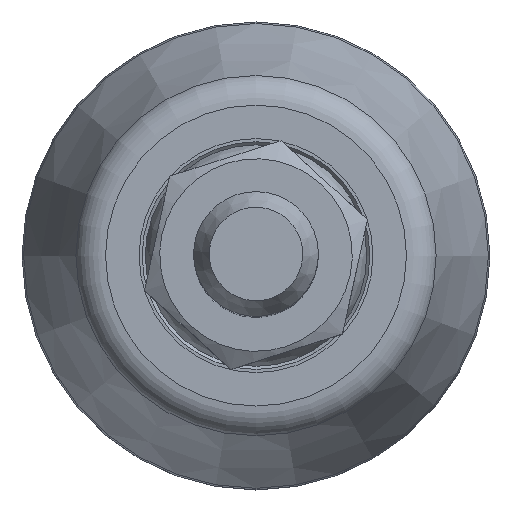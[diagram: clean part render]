
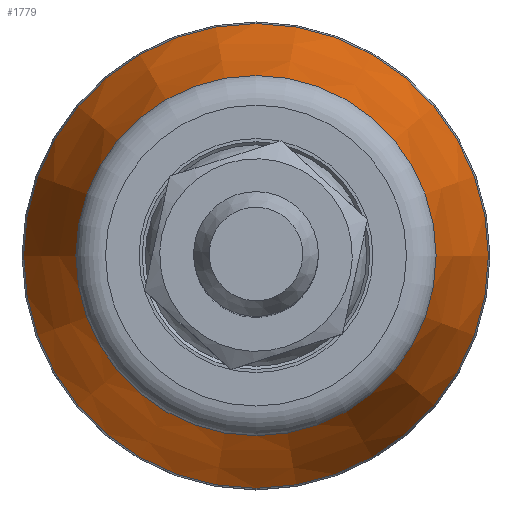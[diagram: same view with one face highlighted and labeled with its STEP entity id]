
A CAD part, top view. The second image highlights one B-rep face of the part: STEP entity #1779.
In plain terms, the highlighted conical face has half-angle 18 degrees and reference radius 13.226 mm.
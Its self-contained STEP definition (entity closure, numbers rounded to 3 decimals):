
#1779=ADVANCED_FACE('',(#3409,#3411),#3413,.T.);
#3409=FACE_BOUND('',#3410,.T.);
#3410=EDGE_LOOP('',(#4608,#4609));
#3411=FACE_BOUND('',#3412,.T.);
#3412=EDGE_LOOP('',(#4610,#4611));
#3413=CONICAL_SURFACE('',#3414,13.226,0.314);
#3414=AXIS2_PLACEMENT_3D('',#3415,#3416,#3417);
#3415=CARTESIAN_POINT('',(0.,0.,11.46));
#3416=DIRECTION('',(0.,0.,-1.));
#3417=DIRECTION('',(1.,0.,0.));
#4608=ORIENTED_EDGE('',*,*,#5232,.T.);
#4609=ORIENTED_EDGE('',*,*,#5231,.T.);
#4610=ORIENTED_EDGE('',*,*,#5235,.F.);
#4611=ORIENTED_EDGE('',*,*,#5236,.F.);
#5231=EDGE_CURVE('',#6089,#6090,#6091,.T.);
#5232=EDGE_CURVE('',#6090,#6089,#6092,.T.);
#5235=EDGE_CURVE('',#6097,#6098,#6099,.T.);
#5236=EDGE_CURVE('',#6098,#6097,#6100,.T.);
#6089=VERTEX_POINT('',#11500);
#6090=VERTEX_POINT('',#11501);
#6091=CIRCLE('',#11502,14.902);
#6092=CIRCLE('',#11506,14.902);
#6097=VERTEX_POINT('',#11520);
#6098=VERTEX_POINT('',#11521);
#6099=CIRCLE('',#11522,11.55);
#6100=CIRCLE('',#11526,11.55);
#11500=CARTESIAN_POINT('',(-14.902,0.,6.301));
#11501=CARTESIAN_POINT('',(14.902,0.,6.301));
#11502=AXIS2_PLACEMENT_3D('',#11503,#11504,#11505);
#11503=CARTESIAN_POINT('',(0.,0.,6.301));
#11504=DIRECTION('',(0.,0.,1.));
#11505=DIRECTION('',(-1.,0.,0.));
#11506=AXIS2_PLACEMENT_3D('',#11507,#11508,#11509);
#11507=CARTESIAN_POINT('',(0.,0.,6.301));
#11508=DIRECTION('',(0.,0.,1.));
#11509=DIRECTION('',(1.,0.,0.));
#11520=CARTESIAN_POINT('',(-11.55,0.,16.618));
#11521=CARTESIAN_POINT('',(11.55,0.,16.618));
#11522=AXIS2_PLACEMENT_3D('',#11523,#11524,#11525);
#11523=CARTESIAN_POINT('',(0.,0.,16.618));
#11524=DIRECTION('',(0.,0.,1.));
#11525=DIRECTION('',(-1.,0.,0.));
#11526=AXIS2_PLACEMENT_3D('',#11527,#11528,#11529);
#11527=CARTESIAN_POINT('',(0.,0.,16.618));
#11528=DIRECTION('',(0.,0.,1.));
#11529=DIRECTION('',(1.,0.,0.));
